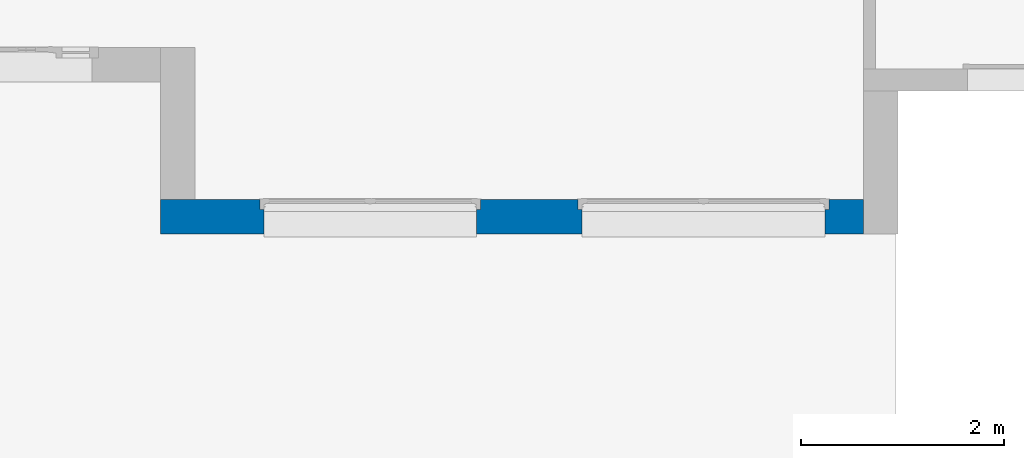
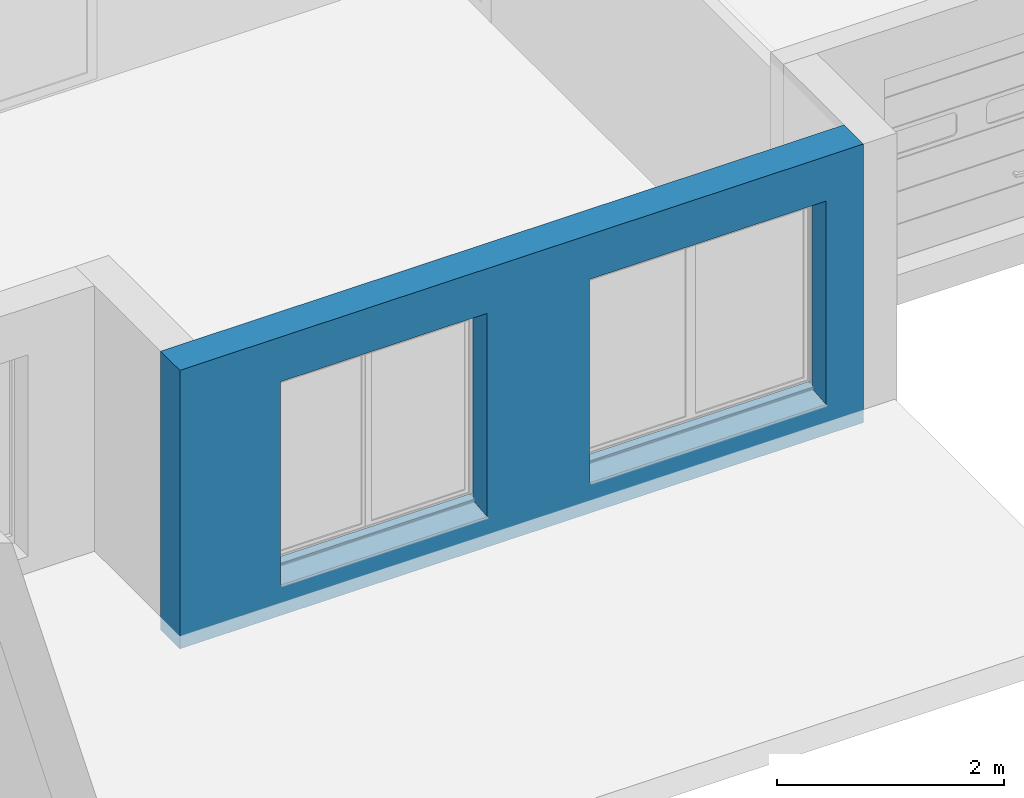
# One storey, part 12 of 23: 1 wall, 2 openings.
"""IFC2X3 building model written with IfcOpenShell, lengths in metres."""

from ifc_helpers import new_model, entity, si_unit, converted_unit, derived_unit, direction, frame, frame_2d, origin, place, context, subcontext, project, spatial, rectangle, extrude, faceted_brep, material, layer, layer_set, layer_usage, type_object, element, save


model = new_model("IFC2X3")

# Units and contexts
model_context = context("Model", 3, precision=1e-05, world=origin(), true_north=direction((6.12303176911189e-17, 1.0)))
body_context = subcontext(model_context, "Body", "Model", "MODEL_VIEW")
ifc_project = project(units=[si_unit("LENGTHUNIT", "METRE"), si_unit("AREAUNIT", "SQUARE_METRE"), si_unit("VOLUMEUNIT", "CUBIC_METRE"), converted_unit("PLANEANGLEUNIT", "DEGREE", entity("IfcRatioMeasure", 0.0174532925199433), si_unit("PLANEANGLEUNIT", "RADIAN"), dimensions=[0, 0, 0, 0, 0, 0, 0]), si_unit("MASSUNIT", "GRAM", prefix="KILO"), derived_unit("MASSDENSITYUNIT", [(si_unit("MASSUNIT", "GRAM", prefix="KILO"), 1), (si_unit("LENGTHUNIT", "METRE"), -3)]), si_unit("TIMEUNIT", "SECOND"), si_unit("FREQUENCYUNIT", "HERTZ"), si_unit("THERMODYNAMICTEMPERATUREUNIT", "DEGREE_CELSIUS"), derived_unit("THERMALTRANSMITTANCEUNIT", [(si_unit("MASSUNIT", "GRAM", prefix="KILO"), 1), (si_unit("THERMODYNAMICTEMPERATUREUNIT", "KELVIN"), -1), (si_unit("TIMEUNIT", "SECOND"), -3)]), derived_unit("VOLUMETRICFLOWRATEUNIT", [(si_unit("LENGTHUNIT", "METRE"), 3), (si_unit("TIMEUNIT", "SECOND"), -1)]), si_unit("ELECTRICCURRENTUNIT", "AMPERE"), si_unit("ELECTRICVOLTAGEUNIT", "VOLT"), si_unit("POWERUNIT", "WATT"), si_unit("FORCEUNIT", "NEWTON", prefix="KILO"), si_unit("ILLUMINANCEUNIT", "LUX"), si_unit("LUMINOUSFLUXUNIT", "LUMEN"), si_unit("LUMINOUSINTENSITYUNIT", "CANDELA"), derived_unit("USERDEFINED", [(si_unit("MASSUNIT", "GRAM", prefix="KILO"), -1), (si_unit("LENGTHUNIT", "METRE"), -2), (si_unit("TIMEUNIT", "SECOND"), 3), (si_unit("LUMINOUSFLUXUNIT", "LUMEN"), 1)]), derived_unit("LINEARVELOCITYUNIT", [(si_unit("LENGTHUNIT", "METRE"), 1), (si_unit("TIMEUNIT", "SECOND"), -1)]), si_unit("PRESSUREUNIT", "PASCAL"), derived_unit("USERDEFINED", [(si_unit("LENGTHUNIT", "METRE"), -2), (si_unit("MASSUNIT", "GRAM", prefix="KILO"), 1), (si_unit("TIMEUNIT", "SECOND"), -2)])], contexts=[model_context])

# Site, building, storey
site_placement = place(None, origin())
site = spatial("IfcSite", under=ifc_project, at=site_placement, Name="Default", CompositionType="ELEMENT")
building_placement = place(site_placement, origin())
building = spatial("IfcBuilding", under=site, at=building_placement, CompositionType="ELEMENT")
storey_placement = place(building_placement, origin())
storey = spatial("IfcBuildingStorey", under=building, at=storey_placement, Name="2 - Rez de Chaussée", CompositionType="ELEMENT", Elevation=-1.94916083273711e-14)

# Wall, openings
ifc_material_1 = material(Name="Maçonnerie - Enduit")
ifc_layer_1 = layer(ifc_material_1, 0.02)
ifc_material_2 = material(Name="Blocs béton manufacturés")
ifc_layer_2 = layer(ifc_material_2, 0.2)
ifc_material_3 = material(Name="TIFE, isolation extérieure")
ifc_layer_3 = layer(ifc_material_3, 0.12)
ifc_layer_set = layer_set([ifc_layer_1, ifc_layer_2, ifc_layer_3], Name="Mur de base:Isolant 10+1 vide 1 Parpaing 20 Enduit 2")
ifc_layer_usage = layer_usage(ifc_layer_set, "AXIS2", "NEGATIVE", 0.17)
wall_type = type_object("IfcWallType", Name="Mur de base:Isolant 10+1 vide 1 Parpaing 20 Enduit 2", PredefinedType="STANDARD", material=ifc_layer_set)
wall_placement = place(storey_placement, frame((5.1837775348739, -1.04194499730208, -0.32), z_axis=(0.0, 0.0, 1.0), x_axis=(-1.0, 0.0, 0.0)))
wall = element("IfcWallStandardCase", 1, at=wall_placement, inside=storey, type_object=wall_type, material=ifc_layer_usage, Name="Mur de base:Isolant 10+1 vide 1 Parpaing 20 Enduit 2", ObjectType="Mur de base:Isolant 10+1 vide 1 Parpaing 20 Enduit 2", context=body_context, shape_type="SweptSolid", body=[
    extrude(rectangle(XDim=6.94000000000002, YDim=0.34, at=frame_2d((3.47000000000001, 0.0), x_axis=(-1.0, 0.0))), origin(), (0.0, 0.0, 1.0), 2.99000000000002),
])
opening_1_placement = place(wall_placement, frame((5.97000000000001, 0.5, 0.324370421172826), z_axis=(0.0, 0.0, 1.0), x_axis=(-1.0, 0.0, 0.0)))
element("IfcOpeningElement", 2, at=opening_1_placement, cuts=wall, Name="Mur de base:Isolant 10+1 vide 1 Parpaing 20 Enduit 2", ObjectType="Opening", context=body_context, shape_type="Brep", body=[
    faceted_brep([(0.0500000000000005, 1.0, 2.18562957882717), (2.15, 1.0, 2.18562957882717), (2.15, 1.0, 0.0356295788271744), (0.0500000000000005, 1.0, 0.0356295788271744), (0.0499999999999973, 0.0, 2.18562957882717), (0.0499999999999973, 0.0, 0.0356295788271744), (2.15, 0.0, 0.0356295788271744), (2.15, 0.0, 2.18562957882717), (0.0499999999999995, 0.683, 2.18562957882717), (2.15, 0.683, 2.18562957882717), (2.15, 0.683, 0.0356295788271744), (2.19, 0.683, 0.0356295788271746), (2.19, 0.569999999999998, 0.0356295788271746), (2.15, 0.569999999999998, 0.0356295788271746), (2.15, 0.572000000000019, 0.0356295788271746), (0.0499999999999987, 0.572000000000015, 0.0356295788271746), (0.0499999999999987, 0.569999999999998, 0.0356295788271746), (0.0100000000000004, 0.569999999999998, 0.0356295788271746), (0.0100000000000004, 0.683, 0.0356295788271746), (0.0499999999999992, 0.683, 0.0356295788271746), (0.0100000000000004, 0.683, 2.22562957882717), (2.19, 0.683, 2.22562957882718), (2.19, 0.569999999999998, 2.22562957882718), (2.2, 0.569999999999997, 2.22562957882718), (2.2, 0.569999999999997, 2.40562957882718), (0.0, 0.569999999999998, 2.40562957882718), (0.0, 0.569999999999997, 2.22562957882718), (0.0100000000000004, 0.569999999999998, 2.22562957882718), (0.0499999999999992, 0.569999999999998, 2.18562957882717), (2.15, 0.569999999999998, 2.18562957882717), (2.2, 0.702999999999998, 2.40562957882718), (2.2, 0.702999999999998, 2.22562957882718), (0.0, 0.702999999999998, 2.40562957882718), (0.0, 0.702999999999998, 2.22562957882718), (2.15, 0.572000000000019, 0.0237969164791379), (0.0499999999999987, 0.572000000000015, 0.0237969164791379), (2.15, 0.299999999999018, 0.0356295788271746), (0.0499999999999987, 0.299999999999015, 0.0356295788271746), (0.0499999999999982, 0.299999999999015, 0.0), (2.15, 0.299999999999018, 0.0)], [[[0, 1, 2, 3]], [[4, 5, 6, 7]], [[0, 8, 9, 1]], [[1, 9, 10, 2]], [[2, 10, 11, 12, 13, 14, 15, 16, 17, 18, 19, 3]], [[3, 19, 8, 0]], [[10, 9, 8, 19, 18, 20, 21, 11]], [[11, 21, 22, 12]], [[12, 22, 23, 24, 25, 26, 27, 17, 16, 28, 29, 13]], [[18, 17, 27, 20]], [[30, 24, 23, 31]], [[32, 33, 26, 25]], [[30, 32, 25, 24]], [[23, 22, 21, 20, 27, 26, 33, 31]], [[31, 33, 32, 30]], [[34, 35, 15, 14]], [[36, 37, 38, 39]], [[39, 38, 35, 34]], [[4, 28, 16, 15, 35, 38, 37, 5]], [[5, 37, 36, 6]], [[6, 36, 39, 34, 14, 13, 29, 7]], [[7, 29, 28, 4]]]),
])
opening_2_placement = place(wall_placement, frame((2.83000000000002, 0.500000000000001, 0.324370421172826), z_axis=(0.0, 0.0, 1.0), x_axis=(-1.0, 0.0, 0.0)))
element("IfcOpeningElement", 3, at=opening_2_placement, cuts=wall, Name="Mur de base:Isolant 10+1 vide 1 Parpaing 20 Enduit 2", ObjectType="Opening", context=body_context, shape_type="Brep", body=[
    faceted_brep([(0.0500000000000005, 1.0, 2.18562957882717), (2.45, 1.0, 2.18562957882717), (2.45, 1.0, 0.0356295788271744), (0.0500000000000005, 1.0, 0.0356295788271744), (0.0499999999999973, 0.0, 2.18562957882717), (0.0499999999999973, 0.0, 0.0356295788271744), (2.45, 0.0, 0.0356295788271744), (2.45, 0.0, 2.18562957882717), (0.0499999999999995, 0.683000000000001, 2.18562957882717), (2.45, 0.683000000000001, 2.18562957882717), (2.45, 0.683000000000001, 0.0356295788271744), (2.49, 0.683000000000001, 0.0356295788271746), (2.49, 0.569999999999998, 0.0356295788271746), (2.45, 0.569999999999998, 0.0356295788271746), (2.45, 0.572000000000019, 0.0356295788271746), (0.0499999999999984, 0.572000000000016, 0.0356295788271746), (0.0499999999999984, 0.569999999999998, 0.0356295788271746), (0.00999999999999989, 0.569999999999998, 0.0356295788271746), (0.00999999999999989, 0.683000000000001, 0.0356295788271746), (0.0499999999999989, 0.683000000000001, 0.0356295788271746), (0.0100000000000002, 0.683000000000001, 2.22562957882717), (2.49, 0.683000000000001, 2.22562957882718), (2.49, 0.569999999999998, 2.22562957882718), (2.5, 0.569999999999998, 2.22562957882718), (2.5, 0.569999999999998, 2.40562957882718), (0.0, 0.569999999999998, 2.40562957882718), (0.0, 0.569999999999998, 2.22562957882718), (0.00999999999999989, 0.569999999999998, 2.22562957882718), (0.0499999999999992, 0.569999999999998, 2.18562957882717), (2.45, 0.569999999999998, 2.18562957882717), (2.5, 0.702999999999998, 2.40562957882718), (2.5, 0.702999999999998, 2.22562957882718), (0.0, 0.702999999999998, 2.40562957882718), (0.0, 0.702999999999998, 2.22562957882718), (2.45, 0.572000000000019, 0.0237969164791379), (0.0499999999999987, 0.572000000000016, 0.0237969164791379), (2.45, 0.299999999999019, 0.0356295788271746), (0.0499999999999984, 0.299999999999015, 0.0356295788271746), (0.0499999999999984, 0.299999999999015, 0.0), (2.45, 0.299999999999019, 0.0)], [[[0, 1, 2, 3]], [[4, 5, 6, 7]], [[0, 8, 9, 1]], [[1, 9, 10, 2]], [[2, 10, 11, 12, 13, 14, 15, 16, 17, 18, 19, 3]], [[3, 19, 8, 0]], [[10, 9, 8, 19, 18, 20, 21, 11]], [[11, 21, 22, 12]], [[12, 22, 23, 24, 25, 26, 27, 17, 16, 28, 29, 13]], [[18, 17, 27, 20]], [[30, 24, 23, 31]], [[32, 33, 26, 25]], [[30, 32, 25, 24]], [[23, 22, 21, 20, 27, 26, 33, 31]], [[31, 33, 32, 30]], [[34, 35, 15, 14]], [[36, 37, 38, 39]], [[39, 38, 35, 34]], [[4, 28, 16, 15, 35, 38, 37, 5]], [[5, 37, 36, 6]], [[6, 36, 39, 34, 14, 13, 29, 7]], [[7, 29, 28, 4]]]),
])

save(model, "model.ifc")
